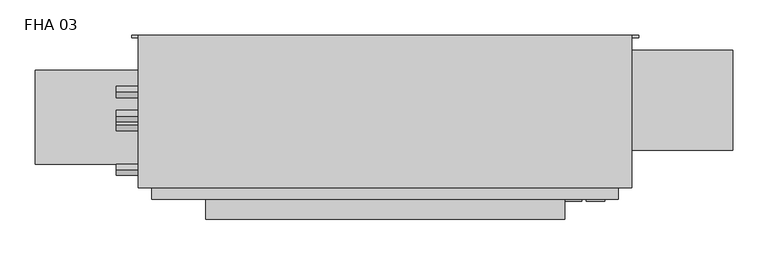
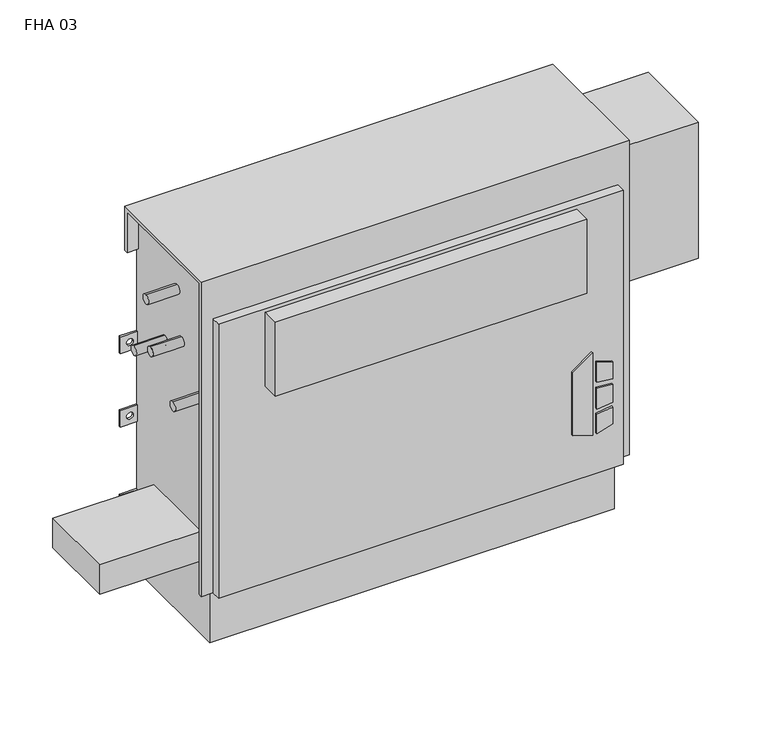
"""IFC4 building model written with IfcOpenShell, lengths in millimetres: proxy geometry, Vertical_Fan_Coil_Unit_-_FHA_-_IEC_-_4-Pipe_FS-FR_LH_2022 : FHA 03."""

from ifc_helpers import new_model, si_unit, point, frame, frame_2d, origin, place, context, project, spatial, polyline, circle_curve, trimmed, segment, composite_curve, outline, extrude, source, transform, mapped, element, save
from ifc_brep_helpers import plane_surface, revolved_surface, advanced_brep


def fha_03_0a466d53(model_context):
    return source(origin(), model_context, "Body", "SolidModel", [
        extrude(outline(polyline([(172.5771459, 398.5368862), (162.6290756, 430.7102728), (304.8, 430.7102728), (281.7779939, 398.5368862), (172.5771459, 398.5368862)])), frame((0.0, 9.525, 0.0), z_axis=(0.0, 1.0, 0.0), x_axis=(0.0, 0.0, 1.0)), (0.0, 0.0, 1.0), 3.175),
        extrude(outline(polyline([(251.5764313, 437.4686058), (248.3740387, 463.55), (277.6028798, 463.55), (285.6672948, 437.4686058), (251.5764313, 437.4686058)])), frame((0.0, 9.525, 0.0), z_axis=(0.0, 1.0, 0.0), x_axis=(0.0, 0.0, 1.0)), (0.0, 0.0, 1.0), 3.175),
        extrude(outline(polyline([(199.7129044, 463.55), (196.0474034, 437.4686058), (162.6290756, 437.4686058), (171.2633128, 463.55), (199.7129044, 463.55)])), frame((0.0, 9.525, 0.0), z_axis=(0.0, 1.0, 0.0), x_axis=(0.0, 0.0, 1.0)), (0.0, 0.0, 1.0), 3.175),
        extrude(outline(polyline([(239.0280658, 463.55), (241.3098921, 437.4686058), (205.3723436, 437.4686058), (208.1136086, 463.55), (239.0280658, 463.55)])), frame((0.0, 9.525, 0.0), z_axis=(0.0, 1.0, 0.0), x_axis=(0.0, 0.0, 1.0)), (0.0, 0.0, 1.0), 3.175),
        extrude(outline(composite_curve([segment(trimmed(circle_curve(frame_2d((-241.3, 128.5875)), 9.525), [point((-250.825, 128.5875))], [point((-231.775, 128.5875))], False, "CARTESIAN"), True, "CONTINUOUS"), segment(trimmed(circle_curve(frame_2d((-241.3, 128.5875)), 9.525), [point((-231.775, 128.5875))], [point((-250.825, 128.5875))], False, "CARTESIAN"), True, "CONTINUOUS")], self_intersect=False)), frame((0.0, 0.0, 101.6), z_axis=(0.0, 0.0, 1.0), x_axis=(1.0, 0.0, 0.0)), (0.0, 0.0, 1.0), 25.4),
        extrude(outline(polyline([(-342.9, 61.9125), (-342.9, 195.2625), (-177.8, 195.2625), (-177.8, 61.9125), (-342.9, 61.9125)])), frame((0.0, 0.0, 127.0), z_axis=(0.0, 0.0, 1.0), x_axis=(1.0, 0.0, 0.0)), (0.0, 0.0, 1.0), 50.8),
        extrude(outline(polyline([(406.4, -15.875), (-101.6, -15.875), (-101.6, 12.7), (406.4, 12.7), (406.4, -15.875)])), frame((0.0, 0.0, 431.8), z_axis=(0.0, 0.0, 1.0), x_axis=(1.0, 0.0, 0.0)), (0.0, 0.0, 1.0), 127.0),
        extrude(outline(composite_curve([segment(trimmed(circle_curve(frame_2d((117.475, 472.44)), 7.9375), [point((117.475, 480.3775))], [point((117.475, 464.5025))], False, "CARTESIAN"), True, "CONTINUOUS"), segment(trimmed(circle_curve(frame_2d((117.475, 472.44)), 7.9375), [point((117.475, 464.5025))], [point((117.475, 480.3775))], False, "CARTESIAN"), True, "CONTINUOUS")], self_intersect=False)), frame((-228.6, 0.0, 0.0), z_axis=(1.0, 0.0, 0.0), x_axis=(0.0, 1.0, 0.0)), (0.0, 0.0, 1.0), 50.8),
        extrude(outline(composite_curve([segment(trimmed(circle_curve(frame_2d((164.211, 445.897)), 7.9375), [point((164.211, 453.8345))], [point((164.211, 437.9595))], False, "CARTESIAN"), True, "CONTINUOUS"), segment(trimmed(circle_curve(frame_2d((164.211, 445.897)), 7.9375), [point((164.211, 437.9595))], [point((164.211, 453.8345))], False, "CARTESIAN"), True, "CONTINUOUS")], self_intersect=False)), frame((-228.6, 0.0, 0.0), z_axis=(1.0, 0.0, 0.0), x_axis=(0.0, 1.0, 0.0)), (0.0, 0.0, 1.0), 50.8),
        extrude(outline(composite_curve([segment(trimmed(circle_curve(frame_2d((130.175, 554.99)), 7.9502), [point((130.175, 562.9402))], [point((130.175, 547.0398))], False, "CARTESIAN"), True, "CONTINUOUS"), segment(trimmed(circle_curve(frame_2d((130.175, 554.99)), 7.9502), [point((130.175, 547.0398))], [point((130.175, 562.9402))], False, "CARTESIAN"), True, "CONTINUOUS")], self_intersect=False)), frame((-228.6, 0.0, 0.0), z_axis=(1.0, 0.0, 0.0), x_axis=(0.0, 1.0, 0.0)), (0.0, 0.0, 1.0), 50.8),
        extrude(outline(composite_curve([segment(trimmed(circle_curve(frame_2d((53.975, 416.56)), 7.9502), [point((53.975, 424.5102))], [point((53.975, 408.6098))], False, "CARTESIAN"), True, "CONTINUOUS"), segment(trimmed(circle_curve(frame_2d((53.975, 416.56)), 7.9502), [point((53.975, 408.6098))], [point((53.975, 424.5102))], False, "CARTESIAN"), True, "CONTINUOUS")], self_intersect=False)), frame((-228.6, 0.0, 0.0), z_axis=(1.0, 0.0, 0.0), x_axis=(0.0, 1.0, 0.0)), (0.0, 0.0, 1.0), 50.8),
        extrude(outline(polyline([(644.525, 223.266), (644.525, 81.534), (482.6, 81.534), (482.6, 223.266), (644.525, 223.266)])), frame((0.0, 0.0, 349.25), z_axis=(0.0, 0.0, 1.0), x_axis=(1.0, 0.0, 0.0)), (0.0, 0.0, 1.0), 234.95),
        advanced_brep(
        [(501.65, 244.475, 635.0), (-196.85, 244.475, 635.0), (-196.85, 28.575, 635.0), (501.65, 28.575, 635.0), (-177.8, 244.475, 0.0), (482.6, 244.475, 0.0), (482.6, 38.1, 0.0), (-177.8, 38.1, 0.0), (501.65, 244.475, 558.8), (482.6, 244.475, 558.8), (482.6, 244.475, 414.3375), (511.175, 244.475, 414.3375), (511.175, 244.475, 385.7625), (482.6, 244.475, 385.7625), (482.6, 244.475, 287.3375), (511.175, 244.475, 287.3375), (511.175, 244.475, 258.7625), (482.6, 244.475, 258.7625), (482.6, 244.475, 141.2875), (511.175, 244.475, 141.2875), (511.175, 244.475, 112.7125), (482.6, 244.475, 112.7125), (-177.8, 244.475, 112.7125), (-206.375, 244.475, 112.7125), (-206.375, 244.475, 141.2875), (-177.8, 244.475, 141.2875), (-177.8, 244.475, 258.7625), (-206.375, 244.475, 258.7625), (-206.375, 244.475, 287.3375), (-177.8, 244.475, 287.3375), (-177.8, 244.475, 385.7625), (-206.375, 244.475, 385.7625), (-206.375, 244.475, 414.3375), (-177.8, 244.475, 414.3375), (-177.8, 244.475, 558.8), (-196.85, 244.475, 558.8), (500.8626, 244.475, 127.0), (489.7374, 244.475, 127.0), (-184.9374, 244.475, 127.0), (-196.0626, 244.475, 127.0), (500.8626, 244.475, 273.05), (489.7374, 244.475, 273.05), (-184.9374, 244.475, 273.05), (-196.0626, 244.475, 273.05), (500.8626, 244.475, 400.05), (489.7374, 244.475, 400.05), (-184.9374, 244.475, 400.05), (-196.0626, 244.475, 400.05), (-196.85, 238.125, 558.8), (-196.85, 238.125, 628.65), (-196.85, 34.925, 628.65), (-196.85, 34.925, 92.075), (-196.85, 28.575, 92.075), (482.6, 12.7, 565.15), (-177.8, 12.7, 565.15), (-177.8, 12.7, 92.075), (482.6, 12.7, 92.075), (501.65, 28.575, 92.075), (501.65, 34.925, 92.075), (501.65, 34.925, 628.65), (501.65, 238.125, 628.65), (501.65, 238.125, 558.8), (-177.8, 28.575, 92.075), (-177.8, 28.575, 565.15), (482.6, 28.575, 565.15), (482.6, 28.575, 92.075), (-177.8, 34.925, 92.075), (-177.8, 38.1, 92.075), (482.6, 38.1, 92.075), (482.6, 34.925, 92.075), (482.6, 241.3, 112.7125), (482.6, 241.3, 141.2875), (482.6, 241.3, 258.7625), (482.6, 241.3, 287.3375), (482.6, 241.3, 385.7625), (482.6, 241.3, 414.3375), (482.6, 238.125, 558.8), (482.6, 238.125, 628.65), (482.6, 34.925, 628.65), (-177.8, 34.925, 628.65), (-177.8, 238.125, 628.65), (-177.8, 238.125, 558.8), (-177.8, 241.3, 414.3375), (-177.8, 241.3, 385.7625), (-177.8, 241.3, 287.3375), (-177.8, 241.3, 258.7625), (-177.8, 241.3, 141.2875), (-177.8, 241.3, 112.7125), (511.175, 241.3, 112.7125), (511.175, 241.3, 141.2875), (489.7374, 241.3, 127.0), (500.8626, 241.3, 127.0), (511.175, 241.3, 258.7625), (511.175, 241.3, 287.3375), (489.7374, 241.3, 273.05), (500.8626, 241.3, 273.05), (511.175, 241.3, 385.7625), (511.175, 241.3, 414.3375), (489.7374, 241.3, 400.05), (500.8626, 241.3, 400.05), (-206.375, 241.3, 141.2875), (-206.375, 241.3, 112.7125), (-196.0626, 241.3, 127.0), (-184.9374, 241.3, 127.0), (-206.375, 241.3, 287.3375), (-206.375, 241.3, 258.7625), (-196.0626, 241.3, 273.05), (-184.9374, 241.3, 273.05), (-206.375, 241.3, 414.3375), (-206.375, 241.3, 385.7625), (-196.0626, 241.3, 400.05), (-184.9374, 241.3, 400.05)],
        [
            (0, 1),
            (1, 2),
            (2, 3),
            (3, 0),
            (4, 5),
            (5, 6),
            (6, 7),
            (7, 4),
            (0, 8),
            (8, 9),
            (9, 10),
            (10, 11),
            (11, 12),
            (12, 13),
            (13, 14),
            (14, 15),
            (15, 16),
            (16, 17),
            (17, 18),
            (18, 19),
            (19, 20),
            (20, 21),
            (21, 5),
            (4, 22),
            (22, 23),
            (23, 24),
            (24, 25),
            (25, 26),
            (26, 27),
            (27, 28),
            (28, 29),
            (29, 30),
            (30, 31),
            (31, 32),
            (32, 33),
            (33, 34),
            (34, 35),
            (35, 1),
            (36, 37, circle_curve(frame((495.3, 244.475, 127.0), z_axis=(0.0, -1.0, 0.0), x_axis=(-1.0, 0.0, 0.0)), 5.5626)),
            (37, 36, circle_curve(frame((495.3, 244.475, 127.0), z_axis=(0.0, -1.0, 0.0), x_axis=(-1.0, 0.0, 0.0)), 5.5626)),
            (38, 39, circle_curve(frame((-190.5, 244.475, 127.0), z_axis=(0.0, -1.0, 0.0), x_axis=(-1.0, 0.0, 0.0)), 5.5626)),
            (39, 38, circle_curve(frame((-190.5, 244.475, 127.0), z_axis=(0.0, -1.0, 0.0), x_axis=(-1.0, 0.0, 0.0)), 5.5626)),
            (40, 41, circle_curve(frame((495.3, 244.475, 273.05), z_axis=(0.0, -1.0, 0.0), x_axis=(-1.0, 0.0, 0.0)), 5.5626)),
            (41, 40, circle_curve(frame((495.3, 244.475, 273.05), z_axis=(0.0, -1.0, 0.0), x_axis=(-1.0, 0.0, 0.0)), 5.5626)),
            (42, 43, circle_curve(frame((-190.5, 244.475, 273.05), z_axis=(0.0, -1.0, 0.0), x_axis=(-1.0, 0.0, 0.0)), 5.5626)),
            (43, 42, circle_curve(frame((-190.5, 244.475, 273.05), z_axis=(0.0, -1.0, 0.0), x_axis=(-1.0, 0.0, 0.0)), 5.5626)),
            (44, 45, circle_curve(frame((495.3, 244.475, 400.05), z_axis=(0.0, -1.0, 0.0), x_axis=(-1.0, 0.0, 0.0)), 5.5626)),
            (45, 44, circle_curve(frame((495.3, 244.475, 400.05), z_axis=(0.0, -1.0, 0.0), x_axis=(-1.0, 0.0, 0.0)), 5.5626)),
            (46, 47, circle_curve(frame((-190.5, 244.475, 400.05), z_axis=(0.0, -1.0, 0.0), x_axis=(-1.0, 0.0, 0.0)), 5.5626)),
            (47, 46, circle_curve(frame((-190.5, 244.475, 400.05), z_axis=(0.0, -1.0, 0.0), x_axis=(-1.0, 0.0, 0.0)), 5.5626)),
            (35, 48),
            (48, 49),
            (49, 50),
            (50, 51),
            (51, 52),
            (52, 2),
            (53, 54),
            (54, 55),
            (55, 56),
            (56, 53),
            (3, 57),
            (57, 58),
            (58, 59),
            (59, 60),
            (60, 61),
            (61, 8),
            (52, 62),
            (62, 63),
            (63, 64),
            (64, 65),
            (65, 57),
            (53, 64),
            (63, 54),
            (55, 62),
            (51, 66),
            (66, 67),
            (67, 68),
            (68, 69),
            (69, 58),
            (65, 56),
            (6, 68),
            (67, 7),
            (21, 70),
            (70, 71),
            (71, 18),
            (17, 72),
            (72, 73),
            (73, 14),
            (13, 74),
            (74, 75),
            (75, 10),
            (9, 76),
            (76, 77),
            (77, 78),
            (78, 69),
            (66, 79),
            (79, 80),
            (80, 81),
            (81, 34),
            (33, 82),
            (82, 83),
            (83, 30),
            (29, 84),
            (84, 85),
            (85, 26),
            (25, 86),
            (86, 87),
            (87, 22),
            (76, 61),
            (60, 77),
            (78, 59),
            (50, 79),
            (81, 48),
            (80, 49),
            (70, 88),
            (88, 89),
            (89, 71),
            (90, 91, circle_curve(frame((495.3, 241.3, 127.0), z_axis=(0.0, 1.0, 0.0), x_axis=(-1.0, 0.0, 0.0)), 5.5626)),
            (91, 90, circle_curve(frame((495.3, 241.3, 127.0), z_axis=(0.0, 1.0, 0.0), x_axis=(-1.0, 0.0, 0.0)), 5.5626)),
            (92, 93),
            (93, 73),
            (72, 92),
            (94, 95, circle_curve(frame((495.3, 241.3, 273.05), z_axis=(0.0, 1.0, 0.0), x_axis=(-1.0, 0.0, 0.0)), 5.5626)),
            (95, 94, circle_curve(frame((495.3, 241.3, 273.05), z_axis=(0.0, 1.0, 0.0), x_axis=(-1.0, 0.0, 0.0)), 5.5626)),
            (96, 97),
            (97, 75),
            (74, 96),
            (98, 99, circle_curve(frame((495.3, 241.3, 400.05), z_axis=(0.0, 1.0, 0.0), x_axis=(-1.0, 0.0, 0.0)), 5.5626)),
            (99, 98, circle_curve(frame((495.3, 241.3, 400.05), z_axis=(0.0, 1.0, 0.0), x_axis=(-1.0, 0.0, 0.0)), 5.5626)),
            (100, 101),
            (101, 87),
            (86, 100),
            (102, 103, circle_curve(frame((-190.5, 241.3, 127.0), z_axis=(0.0, 1.0, 0.0), x_axis=(-1.0, 0.0, 0.0)), 5.5626)),
            (103, 102, circle_curve(frame((-190.5, 241.3, 127.0), z_axis=(0.0, 1.0, 0.0), x_axis=(-1.0, 0.0, 0.0)), 5.5626)),
            (84, 104),
            (104, 105),
            (105, 85),
            (106, 107, circle_curve(frame((-190.5, 241.3, 273.05), z_axis=(0.0, 1.0, 0.0), x_axis=(-1.0, 0.0, 0.0)), 5.5626)),
            (107, 106, circle_curve(frame((-190.5, 241.3, 273.05), z_axis=(0.0, 1.0, 0.0), x_axis=(-1.0, 0.0, 0.0)), 5.5626)),
            (108, 109),
            (109, 83),
            (82, 108),
            (110, 111, circle_curve(frame((-190.5, 241.3, 400.05), z_axis=(0.0, 1.0, 0.0), x_axis=(-1.0, 0.0, 0.0)), 5.5626)),
            (111, 110, circle_curve(frame((-190.5, 241.3, 400.05), z_axis=(0.0, 1.0, 0.0), x_axis=(-1.0, 0.0, 0.0)), 5.5626)),
            (89, 19),
            (88, 20),
            (16, 92),
            (93, 15),
            (12, 96),
            (97, 11),
            (24, 100),
            (101, 23),
            (105, 27),
            (104, 28),
            (32, 108),
            (109, 31),
            (90, 37),
            (36, 91),
            (102, 39),
            (38, 103),
            (94, 41),
            (40, 95),
            (106, 43),
            (42, 107),
            (98, 45),
            (44, 99),
            (110, 47),
            (46, 111),
        ],
        [
            plane_surface(frame((-196.85, 244.475, 635.0), z_axis=(0.0, 0.0, 1.0), x_axis=(-1.0, 0.0, 0.0))),
            plane_surface(frame((-196.85, 244.475, 0.0), z_axis=(0.0, 0.0, -1.0), x_axis=(1.0, 0.0, 0.0))),
            plane_surface(frame((501.65, 244.475, 635.0), z_axis=(0.0, 1.0, 0.0), x_axis=(0.0, 0.0, -1.0))),
            plane_surface(frame((-196.85, 244.475, 635.0), z_axis=(-1.0, 0.0, 0.0), x_axis=(0.0, 0.0, -1.0))),
            plane_surface(frame((-196.85, 12.7, 635.0), z_axis=(0.0, -1.0, 0.0), x_axis=(0.0, 0.0, -1.0))),
            plane_surface(frame((501.65, 12.7, 635.0), z_axis=(1.0, 0.0, 0.0), x_axis=(0.0, 0.0, -1.0))),
            plane_surface(frame((-247.65, 28.575, 635.0), z_axis=(0.0, -1.0, 0.0), x_axis=(1.0, 0.0, 0.0))),
            plane_surface(frame((-247.65, 28.575, 565.15), z_axis=(0.0, 0.0, 1.0), x_axis=(1.0, 0.0, 0.0))),
            plane_surface(frame((-196.85, 12.7, 92.075), z_axis=(0.0, 0.0, -1.0), x_axis=(1.0, 0.0, 0.0))),
            plane_surface(frame((-196.85, 38.1, 92.075), z_axis=(0.0, -1.0, 0.0), x_axis=(1.0, 0.0, 0.0))),
            plane_surface(frame((482.6, 28.575, 92.075), z_axis=(1.0, 0.0, 0.0), x_axis=(0.0, -1.0, 0.0))),
            plane_surface(frame((-177.8, 28.575, 565.15), z_axis=(-1.0, 0.0, 0.0), x_axis=(0.0, -1.0, 0.0))),
            plane_surface(frame((482.6, 244.475, 0.0), z_axis=(1.0, 0.0, 0.0), x_axis=(0.0, -1.0, 0.0))),
            plane_surface(frame((-177.8, 244.475, 92.075), z_axis=(-1.0, 0.0, 0.0), x_axis=(0.0, -1.0, 0.0))),
            plane_surface(frame((482.6, 238.125, 628.65), z_axis=(0.0, -1.0, 0.0), x_axis=(1.0, 0.0, 0.0))),
            plane_surface(frame((482.6, 238.125, 558.8), z_axis=(0.0, 0.0, -1.0), x_axis=(1.0, 0.0, 0.0))),
            plane_surface(frame((482.6, 34.925, 92.075), z_axis=(0.0, 1.0, 0.0), x_axis=(1.0, 0.0, 0.0))),
            plane_surface(frame((482.6, 34.925, 628.65), z_axis=(0.0, 0.0, -1.0), x_axis=(1.0, 0.0, 0.0))),
            plane_surface(frame((-177.8, 34.925, 628.65), z_axis=(0.0, 1.0, 0.0), x_axis=(-1.0, 0.0, 0.0))),
            plane_surface(frame((-177.8, 244.475, 558.8), z_axis=(0.0, 0.0, -1.0), x_axis=(-1.0, 0.0, 0.0))),
            plane_surface(frame((-177.8, 238.125, 558.8), z_axis=(0.0, -1.0, 0.0), x_axis=(-1.0, 0.0, 0.0))),
            plane_surface(frame((-177.8, 238.125, 628.65), z_axis=(0.0, 0.0, -1.0), x_axis=(-1.0, 0.0, 0.0))),
            plane_surface(frame((511.175, 241.3, 141.2875), z_axis=(0.0, -1.0, 0.0), x_axis=(-1.0, 0.0, 0.0))),
            plane_surface(frame((482.6, 244.475, 141.2875), z_axis=(0.0, 0.0, 1.0), x_axis=(0.0, -1.0, 0.0))),
            plane_surface(frame((511.175, 244.475, 141.2875), z_axis=(1.0, 0.0, 0.0), x_axis=(0.0, -1.0, 0.0))),
            plane_surface(frame((511.175, 244.475, 112.7125), z_axis=(0.0, 0.0, -1.0), x_axis=(0.0, -1.0, 0.0))),
            plane_surface(frame((511.175, 244.475, 258.7625), z_axis=(0.0, 0.0, -1.0), x_axis=(0.0, -1.0, 0.0))),
            plane_surface(frame((482.6, 244.475, 287.3375), z_axis=(0.0, 0.0, 1.0), x_axis=(0.0, -1.0, 0.0))),
            plane_surface(frame((511.175, 244.475, 287.3375), z_axis=(1.0, 0.0, 0.0), x_axis=(0.0, -1.0, 0.0))),
            plane_surface(frame((511.175, 244.475, 385.7625), z_axis=(0.0, 0.0, -1.0), x_axis=(0.0, -1.0, 0.0))),
            plane_surface(frame((482.6, 244.475, 414.3375), z_axis=(0.0, 0.0, 1.0), x_axis=(0.0, -1.0, 0.0))),
            plane_surface(frame((511.175, 244.475, 414.3375), z_axis=(1.0, 0.0, 0.0), x_axis=(0.0, -1.0, 0.0))),
            plane_surface(frame((-206.375, 244.475, 141.2875), z_axis=(0.0, 0.0, 1.0), x_axis=(0.0, -1.0, 0.0))),
            plane_surface(frame((-177.8, 244.475, 112.7125), z_axis=(0.0, 0.0, -1.0), x_axis=(0.0, -1.0, 0.0))),
            plane_surface(frame((-206.375, 244.475, 112.7125), z_axis=(-1.0, 0.0, 0.0), x_axis=(0.0, -1.0, 0.0))),
            plane_surface(frame((-177.8, 244.475, 258.7625), z_axis=(0.0, 0.0, -1.0), x_axis=(0.0, -1.0, 0.0))),
            plane_surface(frame((-206.375, 244.475, 258.7625), z_axis=(-1.0, 0.0, 0.0), x_axis=(0.0, -1.0, 0.0))),
            plane_surface(frame((-206.375, 244.475, 287.3375), z_axis=(0.0, 0.0, 1.0), x_axis=(0.0, -1.0, 0.0))),
            plane_surface(frame((-206.375, 244.475, 414.3375), z_axis=(0.0, 0.0, 1.0), x_axis=(0.0, -1.0, 0.0))),
            plane_surface(frame((-177.8, 244.475, 385.7625), z_axis=(0.0, 0.0, -1.0), x_axis=(0.0, -1.0, 0.0))),
            plane_surface(frame((-206.375, 244.475, 385.7625), z_axis=(-1.0, 0.0, 0.0), x_axis=(0.0, -1.0, 0.0))),
            revolved_surface(polyline([(489.73740000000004, 241.3, 127.0), (489.73740000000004, 244.475, 127.0)]), (495.3, 244.475, 127.0), (0.0, -1.0, 0.0)),
            revolved_surface(polyline([(-196.0626, 241.3, 127.0), (-196.0626, 244.475, 127.0)]), (-190.5, 244.475, 127.0), (0.0, -1.0, 0.0)),
            revolved_surface(polyline([(489.73740000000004, 241.3, 273.05), (489.73740000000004, 244.475, 273.05)]), (495.3, 244.475, 273.05), (0.0, -1.0, 0.0)),
            revolved_surface(polyline([(-196.0626, 241.3, 273.05), (-196.0626, 244.475, 273.05)]), (-190.5, 244.475, 273.05), (0.0, -1.0, 0.0)),
            revolved_surface(polyline([(489.73740000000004, 241.3, 400.05), (489.73740000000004, 244.475, 400.05)]), (495.3, 244.475, 400.05), (0.0, -1.0, 0.0)),
            revolved_surface(polyline([(-196.0626, 241.3, 400.05), (-196.0626, 244.475, 400.05)]), (-190.5, 244.475, 400.05), (0.0, -1.0, 0.0)),
        ],
        [
            (0, [[1, 2, 3, 4]]),
            (1, [[5, 6, 7, 8]]),
            (2, [[-1, 9, 10, 11, 12, 13, 14, 15, 16, 17, 18, 19, 20, 21, 22, 23, -5, 24, 25, 26, 27, 28, 29, 30, 31, 32, 33, 34, 35, 36, 37, 38], [39, 40], [41, 42], [43, 44], [45, 46], [47, 48], [49, 50]]),
            (3, [[-2, -38, 51, 52, 53, 54, 55, 56]]),
            (4, [[57, 58, 59, 60]]),
            (5, [[-4, 61, 62, 63, 64, 65, 66, -9]]),
            (6, [[-3, -56, 67, 68, 69, 70, 71, -61]]),
            (7, [[-57, 72, -69, 73]]),
            (8, [[-59, 74, -67, -55, 75, 76, 77, 78, 79, -62, -71, 80]]),
            (9, [[-7, 81, -77, 82]]),
            (10, [[-70, -72, -60, -80]]),
            (11, [[-68, -74, -58, -73]]),
            (12, [[-6, -23, 83, 84, 85, -19, 86, 87, 88, -15, 89, 90, 91, -11, 92, 93, 94, 95, -78, -81]]),
            (13, [[-8, -82, -76, 96, 97, 98, 99, -36, 100, 101, 102, -32, 103, 104, 105, -28, 106, 107, 108, -24]]),
            (14, [[-93, 109, -65, 110]]),
            (15, [[-92, -10, -66, -109]]),
            (16, [[-95, 111, -63, -79]]),
            (17, [[-94, -110, -64, -111]]),
            (18, [[-96, -75, -54, 112]]),
            (19, [[-99, 113, -51, -37]]),
            (20, [[-98, 114, -52, -113]]),
            (21, [[-97, -112, -53, -114]]),
            (22, [[115, 116, 117, -84], [118, 119]]),
            (22, [[120, 121, -87, 122], [123, 124]]),
            (22, [[125, 126, -90, 127], [128, 129]]),
            (22, [[130, 131, -107, 132], [133, 134]]),
            (22, [[135, 136, 137, -104], [138, 139]]),
            (22, [[140, 141, -101, 142], [143, 144]]),
            (23, [[-117, 145, -20, -85]]),
            (24, [[-116, 146, -21, -145]]),
            (25, [[-115, -83, -22, -146]]),
            (26, [[-122, -86, -18, 147]]),
            (27, [[-121, 148, -16, -88]]),
            (28, [[-120, -147, -17, -148]]),
            (29, [[-127, -89, -14, 149]]),
            (30, [[-126, 150, -12, -91]]),
            (31, [[-125, -149, -13, -150]]),
            (32, [[-132, -106, -27, 151]]),
            (33, [[-131, 152, -25, -108]]),
            (34, [[-130, -151, -26, -152]]),
            (35, [[-137, 153, -29, -105]]),
            (36, [[-136, 154, -30, -153]]),
            (37, [[-135, -103, -31, -154]]),
            (38, [[-142, -100, -35, 155]]),
            (39, [[-141, 156, -33, -102]]),
            (40, [[-140, -155, -34, -156]]),
            (41, [[157, -39, 158, -118]]),
            (41, [[-157, -119, -158, -40]]),
            (42, [[159, -41, 160, -133]]),
            (42, [[-159, -134, -160, -42]]),
            (43, [[161, -43, 162, -123]]),
            (43, [[-161, -124, -162, -44]]),
            (44, [[163, -45, 164, -138]]),
            (44, [[-163, -139, -164, -46]]),
            (45, [[165, -47, 166, -128]]),
            (45, [[-165, -129, -166, -48]]),
            (46, [[167, -49, 168, -143]]),
            (46, [[-167, -144, -168, -50]]),
        ],
    ),
    ])


if __name__ == "__main__":
    model = new_model("IFC4")
    model_context = context("Model", 3, world=origin())
    ifc_project = project(units=[si_unit("LENGTHUNIT", "METRE", prefix="MILLI")], contexts=[model_context])
    site = spatial("IfcSite", under=ifc_project)
    building = spatial("IfcBuilding", under=site)
    placement = place(None, origin())
    fha_03_shape = fha_03_0a466d53(model_context)
    element("IfcBuildingElementProxy", 1, Name="Vertical_Fan_Coil_Unit_-_FHA_-_IEC_-_4-Pipe_FS-FR_LH_2022 : FHA 03", ObjectType="Vertical_Fan_Coil_Unit_-_FHA_-_IEC_-_4-Pipe_FS-FR_LH_2022 : FHA 03", at=placement, inside=building, context=model_context, shape_type="MappedRepresentation", body=[
        mapped(fha_03_shape, transform((0.0, 0.0, 0.0), x_axis=(1.0, 0.0, 0.0), y_axis=(0.0, 1.0, 0.0), z_axis=(0.0, 0.0, 1.0))),
    ])
    save(model, "model.ifc")
